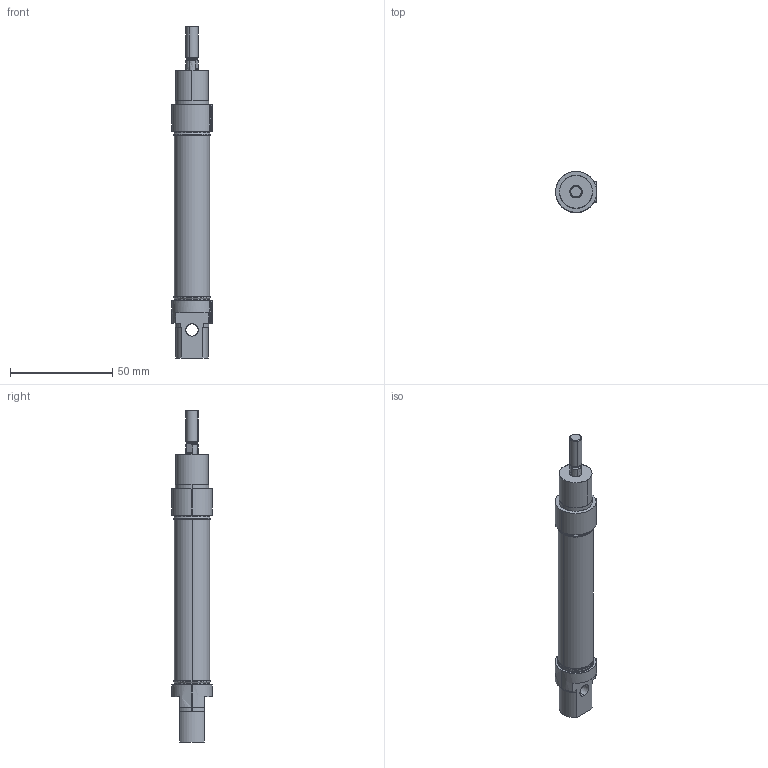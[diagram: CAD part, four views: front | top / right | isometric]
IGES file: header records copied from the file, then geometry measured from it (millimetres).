
Start section: SolidWorks IGES file using analytic representation for surfaces
Global section: file name: D:\ARICA 3D 禽Z軲LER\3D IGES\MA6432S\MA6432S 16\MA6432S16x50CYLINDER.IGS,1; native system: 5HSolidWorks 2013; preprocessor: SolidWorks 2013; author: user; date: 150511.154113; units: millimetre
Bounding box: 20 x 20 x 162 mm (x, y, z)
Surface area: 20088.5 mm2 (no closed solid volume)
Topology: 0 solids, 0 shells, 193 faces, 3846 edges, 3844 vertices
Faces by surface type: revolution 136, bspline 57
